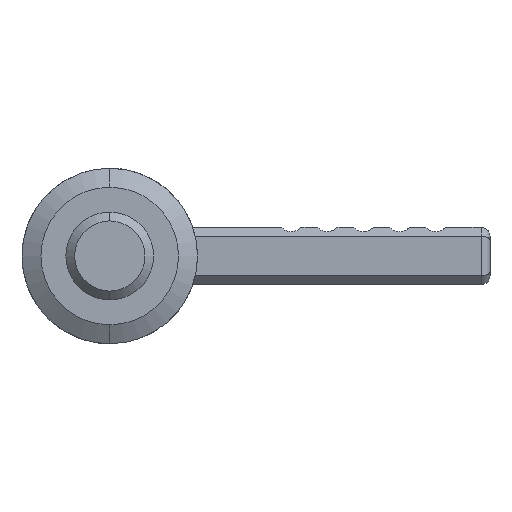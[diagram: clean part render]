
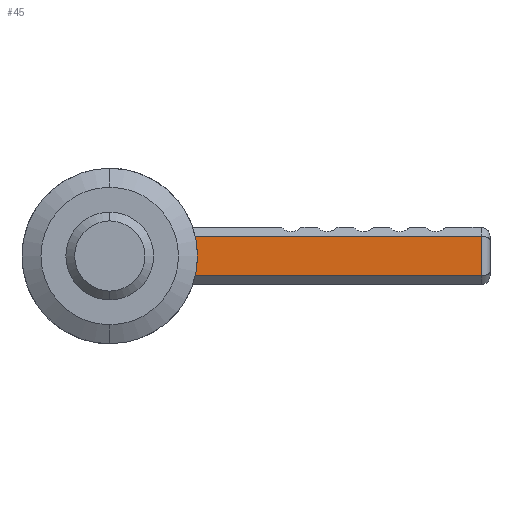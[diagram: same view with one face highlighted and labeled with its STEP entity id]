
A CAD part, front view. The second image highlights one B-rep face of the part: STEP entity #45.
In plain terms, the highlighted planar face has unit normal (0, -1, 0).
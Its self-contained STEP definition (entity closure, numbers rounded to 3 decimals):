
#38 = ORIENTED_EDGE ( 'NONE', *, *, #41, .T. ) ;
#39 = EDGE_LOOP ( 'NONE', ( #38, #122, #107, #100, #91, #83, #185, #181 ) ) ;
#41 = EDGE_CURVE ( 'NONE', #132, #131, #1467, .T. ) ;
#45 = ADVANCED_FACE ( 'NONE', ( #1457, #1456 ), #1455, .F. ) ;
#46 = EDGE_LOOP ( 'NONE', ( #47, #52 ) ) ;
#47 = ORIENTED_EDGE ( 'NONE', *, *, #1351, .F. ) ;
#52 = ORIENTED_EDGE ( 'NONE', *, *, #73, .F. ) ;
#73 = EDGE_CURVE ( 'NONE', #1206, #1352, #1477, .T. ) ;
#83 = ORIENTED_EDGE ( 'NONE', *, *, #1234, .T. ) ;
#87 = VERTEX_POINT ( 'NONE', #1513 ) ;
#88 = EDGE_CURVE ( 'NONE', #87, #1225, #1512, .T. ) ;
#91 = ORIENTED_EDGE ( 'NONE', *, *, #88, .T. ) ;
#94 = VERTEX_POINT ( 'NONE', #1507 ) ;
#96 = VERTEX_POINT ( 'NONE', #1506 ) ;
#98 = EDGE_CURVE ( 'NONE', #96, #87, #1505, .T. ) ;
#100 = ORIENTED_EDGE ( 'NONE', *, *, #98, .T. ) ;
#107 = ORIENTED_EDGE ( 'NONE', *, *, #110, .T. ) ;
#110 = EDGE_CURVE ( 'NONE', #94, #96, #1590, .T. ) ;
#122 = ORIENTED_EDGE ( 'NONE', *, *, #124, .T. ) ;
#124 = EDGE_CURVE ( 'NONE', #131, #94, #1575, .T. ) ;
#131 = VERTEX_POINT ( 'NONE', #1616 ) ;
#132 = VERTEX_POINT ( 'NONE', #1615 ) ;
#179 = EDGE_CURVE ( 'NONE', #1216, #132, #1718, .T. ) ;
#181 = ORIENTED_EDGE ( 'NONE', *, *, #179, .T. ) ;
#185 = ORIENTED_EDGE ( 'NONE', *, *, #1218, .T. ) ;
#1206 = VERTEX_POINT ( 'NONE', #3502 ) ;
#1213 = VERTEX_POINT ( 'NONE', #3491 ) ;
#1216 = VERTEX_POINT ( 'NONE', #3490 ) ;
#1218 = EDGE_CURVE ( 'NONE', #1213, #1216, #3489, .T. ) ;
#1225 = VERTEX_POINT ( 'NONE', #3533 ) ;
#1234 = EDGE_CURVE ( 'NONE', #1225, #1213, #3523, .T. ) ;
#1351 = EDGE_CURVE ( 'NONE', #1352, #1206, #3758, .T. ) ;
#1352 = VERTEX_POINT ( 'NONE', #3750 ) ;
#1451 = DIRECTION ( 'NONE',  ( 0., 0., 1. ) ) ;
#1452 = DIRECTION ( 'NONE',  ( 0., 1., 0. ) ) ;
#1453 = CARTESIAN_POINT ( 'NONE',  ( -2.25, 35., 0. ) ) ;
#1454 = AXIS2_PLACEMENT_3D ( 'NONE', #1453, #1452, #1451 ) ;
#1455 = PLANE ( 'NONE',  #1454 ) ;
#1456 = FACE_OUTER_BOUND ( 'NONE', #39, .T. ) ;
#1457 = FACE_BOUND ( 'NONE', #46, .T. ) ;
#1464 = DIRECTION ( 'NONE',  ( 1., 0., 0. ) ) ;
#1465 = VECTOR ( 'NONE', #1464, 1000. ) ;
#1466 = CARTESIAN_POINT ( 'NONE',  ( 26., 35., -1.349 ) ) ;
#1467 = LINE ( 'NONE', #1466, #1465 ) ;
#1473 = DIRECTION ( 'NONE',  ( 0., 0., -1. ) ) ;
#1474 = DIRECTION ( 'NONE',  ( 0., -1., 0. ) ) ;
#1475 = CARTESIAN_POINT ( 'NONE',  ( 0., 35., 0. ) ) ;
#1476 = AXIS2_PLACEMENT_3D ( 'NONE', #1475, #1474, #1473 ) ;
#1477 = CIRCLE ( 'NONE', #1476, 2.25 ) ;
#1505 = CIRCLE ( 'NONE', #1563, 1.201 ) ;
#1506 = CARTESIAN_POINT ( 'NONE',  ( 3.708, 35., 1.349 ) ) ;
#1507 = CARTESIAN_POINT ( 'NONE',  ( 25.399, 35., 1.349 ) ) ;
#1508 = DIRECTION ( 'NONE',  ( 0., 0., 1. ) ) ;
#1509 = DIRECTION ( 'NONE',  ( 0., -1., 0. ) ) ;
#1510 = CARTESIAN_POINT ( 'NONE',  ( 0., 35., 0. ) ) ;
#1511 = AXIS2_PLACEMENT_3D ( 'NONE', #1510, #1509, #1508 ) ;
#1512 = CIRCLE ( 'NONE', #1511, 3.299 ) ;
#1513 = CARTESIAN_POINT ( 'NONE',  ( 2.718, 35., 1.87 ) ) ;
#1560 = DIRECTION ( 'NONE',  ( 0., 0., 1. ) ) ;
#1561 = DIRECTION ( 'NONE',  ( 0., 1., 0. ) ) ;
#1562 = CARTESIAN_POINT ( 'NONE',  ( 3.708, 35., 2.551 ) ) ;
#1563 = AXIS2_PLACEMENT_3D ( 'NONE', #1562, #1561, #1560 ) ;
#1572 = DIRECTION ( 'NONE',  ( 0., 0., 1. ) ) ;
#1573 = VECTOR ( 'NONE', #1572, 1000. ) ;
#1574 = CARTESIAN_POINT ( 'NONE',  ( 25.399, 35., 1.349 ) ) ;
#1575 = LINE ( 'NONE', #1574, #1573 ) ;
#1587 = DIRECTION ( 'NONE',  ( -1., 0., 0. ) ) ;
#1588 = VECTOR ( 'NONE', #1587, 1000. ) ;
#1589 = CARTESIAN_POINT ( 'NONE',  ( 3.708, 35., 1.349 ) ) ;
#1590 = LINE ( 'NONE', #1589, #1588 ) ;
#1615 = CARTESIAN_POINT ( 'NONE',  ( 3.708, 35., -1.349 ) ) ;
#1616 = CARTESIAN_POINT ( 'NONE',  ( 25.399, 35., -1.349 ) ) ;
#1714 = DIRECTION ( 'NONE',  ( 0., 0., 1. ) ) ;
#1715 = DIRECTION ( 'NONE',  ( 0., 1., 0. ) ) ;
#1716 = CARTESIAN_POINT ( 'NONE',  ( 3.708, 35., -2.551 ) ) ;
#1717 = AXIS2_PLACEMENT_3D ( 'NONE', #1716, #1715, #1714 ) ;
#1718 = CIRCLE ( 'NONE', #1717, 1.201 ) ;
#3487 = CARTESIAN_POINT ( 'NONE',  ( 0., 35., 0. ) ) ;
#3488 = AXIS2_PLACEMENT_3D ( 'NONE', #3487, #3550, #3549 ) ;
#3489 = CIRCLE ( 'NONE', #3488, 3.299 ) ;
#3490 = CARTESIAN_POINT ( 'NONE',  ( 2.718, 35., -1.87 ) ) ;
#3491 = CARTESIAN_POINT ( 'NONE',  ( 0., 35., -3.299 ) ) ;
#3502 = CARTESIAN_POINT ( 'NONE',  ( 0., 35., 2.25 ) ) ;
#3523 = CIRCLE ( 'NONE', #3580, 3.299 ) ;
#3533 = CARTESIAN_POINT ( 'NONE',  ( 0., 35., 3.299 ) ) ;
#3549 = DIRECTION ( 'NONE',  ( 0., 0., 1. ) ) ;
#3550 = DIRECTION ( 'NONE',  ( 0., -1., 0. ) ) ;
#3577 = DIRECTION ( 'NONE',  ( 0., 0., 1. ) ) ;
#3578 = DIRECTION ( 'NONE',  ( 0., -1., 0. ) ) ;
#3579 = CARTESIAN_POINT ( 'NONE',  ( 0., 35., 0. ) ) ;
#3580 = AXIS2_PLACEMENT_3D ( 'NONE', #3579, #3578, #3577 ) ;
#3750 = CARTESIAN_POINT ( 'NONE',  ( 0., 35., -2.25 ) ) ;
#3751 = DIRECTION ( 'NONE',  ( 0., 0., -1. ) ) ;
#3752 = DIRECTION ( 'NONE',  ( 0., -1., 0. ) ) ;
#3753 = CARTESIAN_POINT ( 'NONE',  ( 0., 35., 0. ) ) ;
#3754 = AXIS2_PLACEMENT_3D ( 'NONE', #3753, #3752, #3751 ) ;
#3758 = CIRCLE ( 'NONE', #3754, 2.25 ) ;
